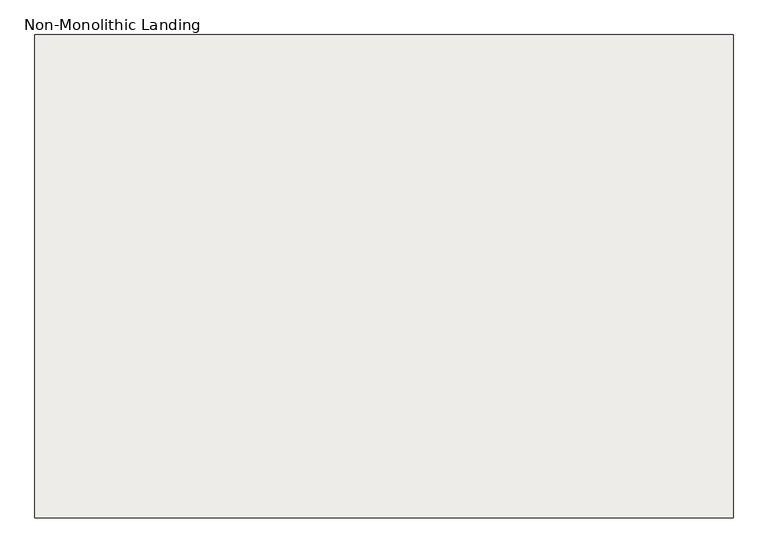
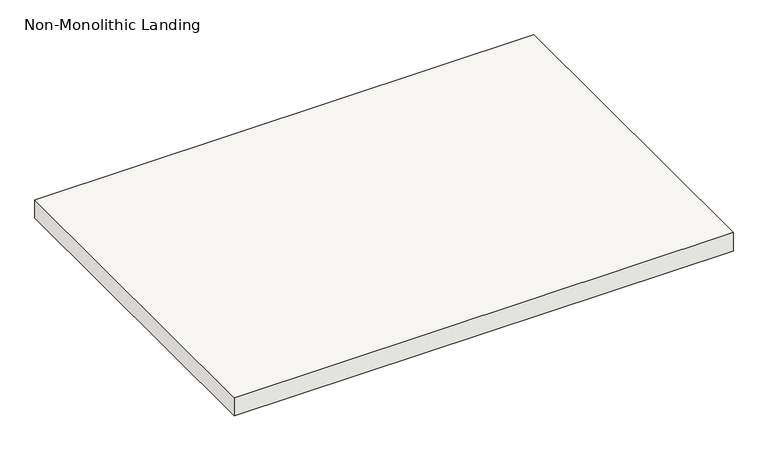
"""IFC4 building model written with IfcOpenShell, lengths in millimetres: slab geometry, Non-Monolithic Landing."""

from ifc_helpers import new_model, si_unit, frame, origin, place, context, project, spatial, polyline, outline, extrude, source, transform, mapped, element, save


def non_monolithic_landing_f3ecc431(model_context):
    return source(origin(), model_context, "Body", "SweptSolid", [
        extrude(outline(polyline([(27862.0112561, -1451.8617549), (29182.8112561, -1451.8617549), (29182.8112561, -2366.2617549), (27862.0112561, -2366.2617549), (27862.0112561, -1451.8617549)])), frame((0.0, 0.0, 2126.3428571), z_axis=(0.0, 0.0, 1.0), x_axis=(1.0, 0.0, 0.0)), (0.0, 0.0, 1.0), 50.8),
    ])


if __name__ == "__main__":
    model = new_model("IFC4")
    model_context = context("Model", 3, world=origin())
    ifc_project = project(units=[si_unit("LENGTHUNIT", "METRE", prefix="MILLI")], contexts=[model_context])
    site = spatial("IfcSite", under=ifc_project)
    building = spatial("IfcBuilding", under=site)
    placement = place(None, origin())
    non_monolithic_landing_shape = non_monolithic_landing_f3ecc431(model_context)
    element("IfcSlab", 1, ObjectType="Non-Monolithic Landing", at=placement, inside=building, context=model_context, shape_type="MappedRepresentation", body=[
        mapped(non_monolithic_landing_shape, transform((0.0, 0.0, 0.0), x_axis=(1.0, 0.0, 0.0), y_axis=(0.0, 1.0, 0.0), z_axis=(0.0, 0.0, 1.0))),
    ])
    save(model, "model.ifc")
